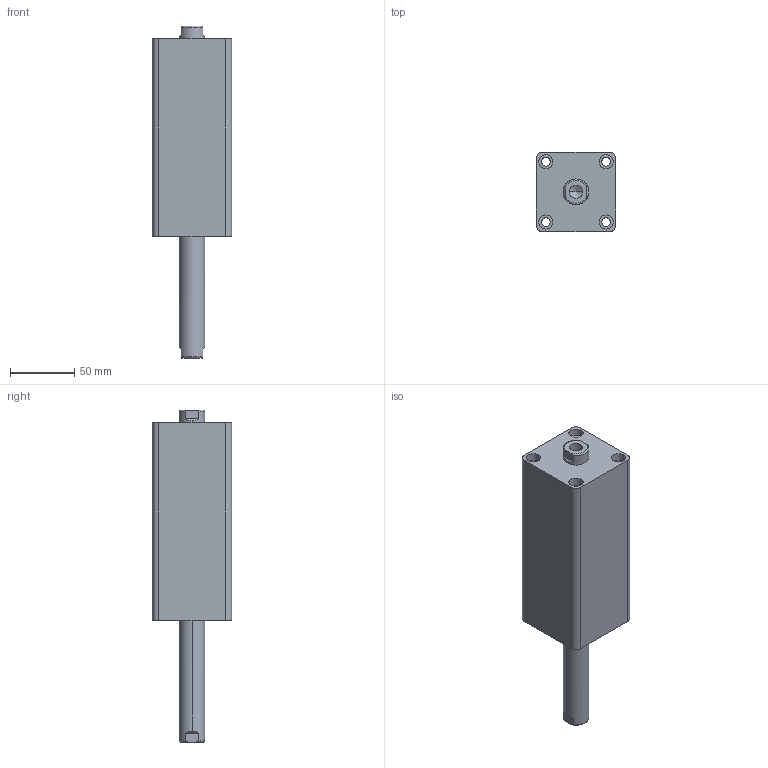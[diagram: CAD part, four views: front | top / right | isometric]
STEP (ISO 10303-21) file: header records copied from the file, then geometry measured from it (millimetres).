
FILE_DESCRIPTION (( 'STEP AP203' ), '1' );
FILE_NAME ('HTB-SW32-85N.STEP', '2019-10-07T08:59:17', ( '微软用户' ), ( '微软中国' ), 'SwSTEP 2.0', 'SolidWorks 2012', '' );
FILE_SCHEMA (( 'CONFIG_CONTROL_DESIGN' ));
Length unit declared in the file: millimetre
Products named in the file (3): HTB-SW32-85N活塞杆; HTB-SW32-85掛极; HTB-SW32-85N
Assembly tree (2 placements, depth 2):
  HTB-SW32-85N
    HTB-SW32-85掛极
    HTB-SW32-85N活塞杆
Bounding box: 62 x 62 x 259 mm (x, y, z)
Volume: 549419.9 mm3; surface area: 92096.2 mm2
Topology: 2 solids, 2 shells, 100 faces, 228 edges, 146 vertices
Faces by surface type: cylinder 48, plane 32, torus 12, cone 8
Entity records: 3237 total; most frequent: CARTESIAN_POINT 595, DIRECTION 542, ORIENTED_EDGE 448, AXIS2_PLACEMENT_3D 229, EDGE_CURVE 224, VERTEX_POINT 146, EDGE_LOOP 128, CIRCLE 124
